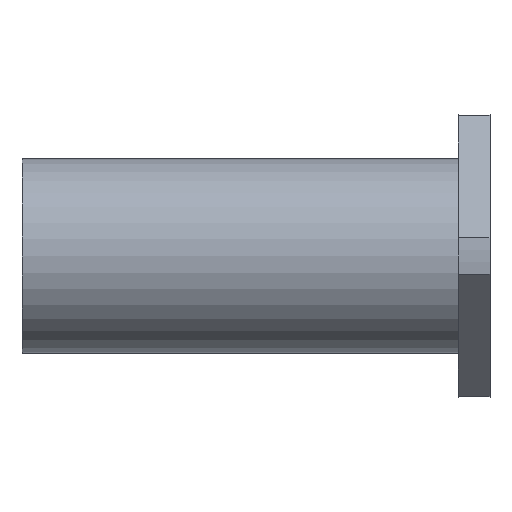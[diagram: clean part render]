
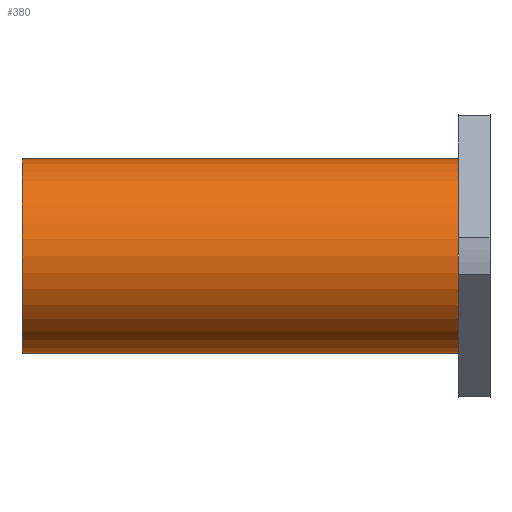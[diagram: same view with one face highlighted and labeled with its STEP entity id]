
A CAD part, front view. The second image highlights one B-rep face of the part: STEP entity #380.
In plain terms, the highlighted cylindrical face has radius 40 mm (diameter 80 mm), a full revolution.
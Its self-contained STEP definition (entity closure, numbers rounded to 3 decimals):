
#83=ORIENTED_EDGE('',*,*,#171,.T.);
#84=ORIENTED_EDGE('',*,*,#172,.F.);
#171=EDGE_CURVE('',#215,#215,#245,.T.);
#172=EDGE_CURVE('',#216,#216,#246,.T.);
#215=VERTEX_POINT('',#638);
#216=VERTEX_POINT('',#640);
#245=CIRCLE('',#433,40.);
#246=CIRCLE('',#434,40.);
#270=EDGE_LOOP('',(#83));
#271=EDGE_LOOP('',(#84));
#320=FACE_BOUND('',#270,.T.);
#321=FACE_BOUND('',#271,.T.);
#362=CYLINDRICAL_SURFACE('',#432,40.);
#380=ADVANCED_FACE('',(#320,#321),#362,.T.);
#432=AXIS2_PLACEMENT_3D('',#636,#514,#515);
#433=AXIS2_PLACEMENT_3D('',#637,#516,#517);
#434=AXIS2_PLACEMENT_3D('',#639,#518,#519);
#514=DIRECTION('',(-1.,0.,0.));
#515=DIRECTION('',(0.,0.,1.));
#516=DIRECTION('',(1.,0.,0.));
#517=DIRECTION('',(0.,0.,-1.));
#518=DIRECTION('',(1.,0.,0.));
#519=DIRECTION('',(0.,0.,-1.));
#636=CARTESIAN_POINT('',(96.,0.,0.));
#637=CARTESIAN_POINT('',(-96.,0.,0.));
#638=CARTESIAN_POINT('',(-96.,0.,-40.));
#639=CARTESIAN_POINT('',(83.,0.,0.));
#640=CARTESIAN_POINT('',(83.,0.,-40.));
